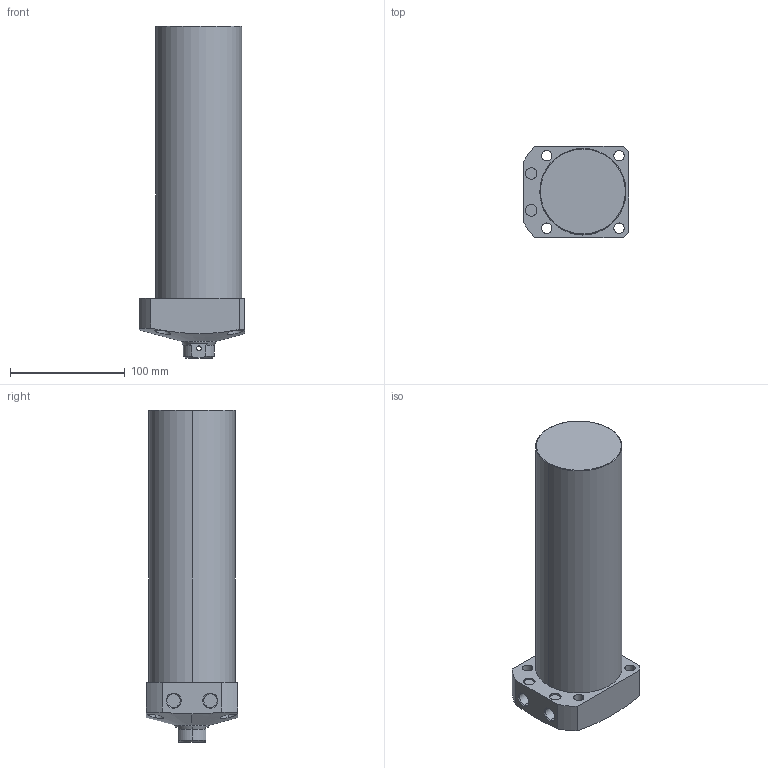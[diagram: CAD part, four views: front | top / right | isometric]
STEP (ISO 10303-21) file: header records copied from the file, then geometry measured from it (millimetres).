
FILE_DESCRIPTION (( 'STEP AP203' ), '1' );
FILE_NAME ('CLL-075CB-200.STEP', '2019-12-24T00:32:00', ( '' ), ( '' ), 'SwSTEP 2.0', 'SolidWorks 2015', '' );
FILE_SCHEMA (( 'CONFIG_CONTROL_DESIGN' ));
Length unit declared in the file: millimetre
Products named in the file (1): CLL-075CB-200
Bounding box: 92 x 80 x 289 mm (x, y, z)
Volume: 1265964.4 mm3; surface area: 88254.9 mm2
Topology: 1 solids, 1 shells, 78 faces, 183 edges, 116 vertices
Faces by surface type: cylinder 39, plane 22, cone 15, torus 2
Entity records: 2862 total; most frequent: CARTESIAN_POINT 955, DIRECTION 396, ORIENTED_EDGE 362, EDGE_CURVE 181, AXIS2_PLACEMENT_3D 164, VERTEX_POINT 116, EDGE_LOOP 101, CIRCLE 85
